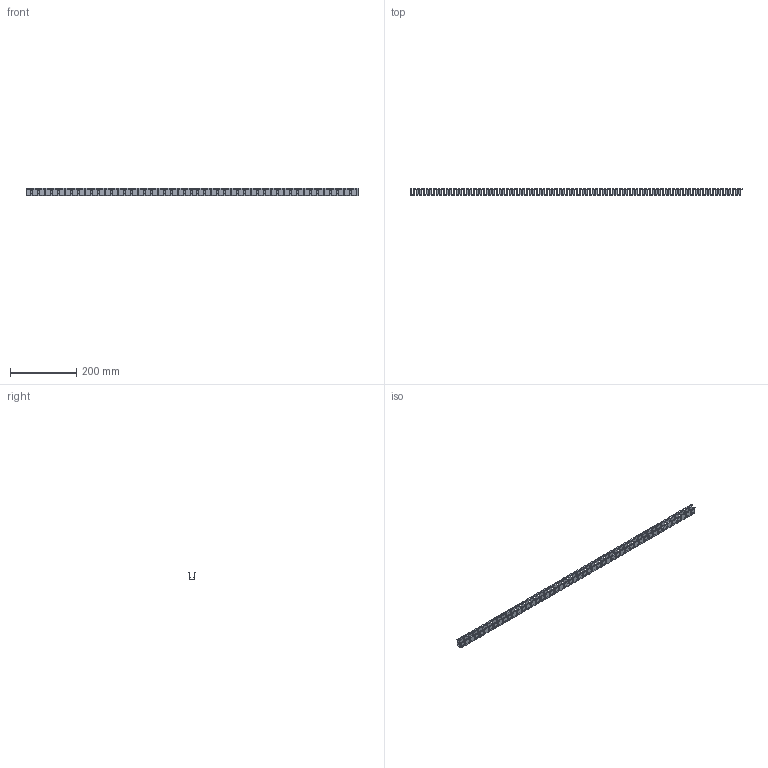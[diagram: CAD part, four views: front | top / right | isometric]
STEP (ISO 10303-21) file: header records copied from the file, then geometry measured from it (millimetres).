
FILE_DESCRIPTION(/* description */ (''),/* implementation_level */ '2;1');
FILE_NAME(/* name */ 'NF_1616+1618_FLEX_DUAL_BEND_L1000_R01.step',/* time_stamp */ '2026-07-27T15:20:48+02:00',/* author */ (''),/* organization */ (''),/* preprocessor_version */ 'ST-DEVELOPER v20.1',/* originating_system */ 'Autodesk Translation Framework v15.8.0.0',/* authorisation */ '');
FILE_SCHEMA (('AUTOMOTIVE_DESIGN { 1 0 10303 214 3 1 1 }'));
Products named in the file (1): 2026-07-27-13-53-08-939
Bounding box: 1000 x 19.23 x 21.8 mm (x, y, z)
Volume: 39830.3 mm3; surface area: 102559.4 mm2
Topology: 1 solids, 1 shells, 2014 faces, 6036 edges, 4024 vertices
Faces by surface type: plane 1711, cylinder 303
Entity records: 67059 total; most frequent: CARTESIAN_POINT 12075, ORIENTED_EDGE 12072, DIRECTION 10672, EDGE_CURVE 6036, LINE 5430, VECTOR 5430, VERTEX_POINT 4024, AXIS2_PLACEMENT_3D 2621
